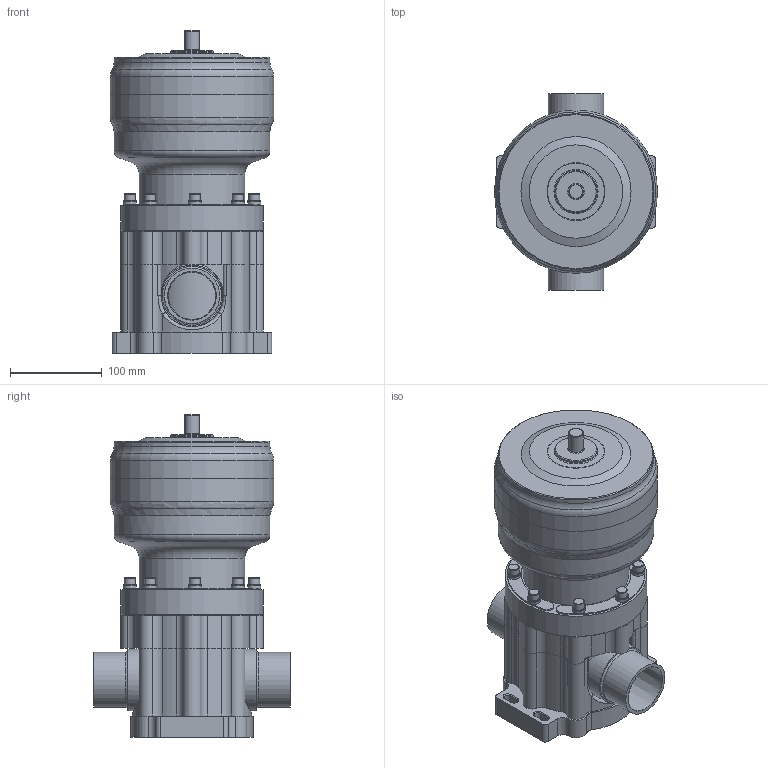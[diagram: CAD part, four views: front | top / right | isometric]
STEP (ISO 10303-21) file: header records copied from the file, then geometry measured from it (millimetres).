
FILE_DESCRIPTION(/* description */ (''),/* implementation_level */ '2;1');
FILE_NAME(/* name */ '50A AV Assy_stp.stp',/* time_stamp */ '2019-10-04T16:11:43+09:00',/* author */ (''),/* organization */ (''),/* preprocessor_version */ 'ST-DEVELOPER v11',/* originating_system */ 'SIEMENS PLM Software NX 7.5',/* authorisation */ '');
FILE_SCHEMA (('AUTOMOTIVE_DESIGN { 1 0 10303 214 1 1 1 1 }'));
Length unit declared in the file: millimetre
Products named in the file (10): Middle Case(50A); M6 PP End CAP; Upper Case2; PLate; Top Case(50A) - 0525; PC CAP; 2Inch Base (Final); 50A BODY  - ( -20180607); Middle Case(50A) Assy; 50A AV Assy_stp
Assembly tree (17 placements, depth 3):
  50A AV Assy_stp
    50A BODY  - ( -20180607)
    Middle Case(50A) Assy
      Middle Case(50A)
    2Inch Base (Final)
    PC CAP
    Top Case(50A) - 0525
    PLate  x2
    Upper Case2
    M6 PP End CAP  x8
Bounding box: 178 x 214 x 351.5 mm (x, y, z)
Volume: 6324663.8 mm3; surface area: 522008.4 mm2
Topology: 16 solids, 16 shells, 715 faces, 1732 edges, 1071 vertices
Faces by surface type: plane 247, cylinder 247, bspline 109, torus 60, cone 28, sphere 24
Full cylindrical faces by diameter (mm): 3 x1, 6.5 x14, 8.566 x1, 11 x6, 12 x8, 14.5 x8, 16 x1, 20 x1, 25 x1, 45 x1, 46 x1, 53 x2, 60.4 x2, 63 x1, 65 x1, 67 x2, 95 x1, 104 x1, 105 x1, 115 x1, 119 x1, 129 x1, 155 x1, 170 x2, 178 x2
Entity records: 23603 total; most frequent: CARTESIAN_POINT 8780, DIRECTION 3034, ORIENTED_EDGE 2992, EDGE_CURVE 1496, AXIS2_PLACEMENT_3D 1240, VERTEX_POINT 971, EDGE_LOOP 785, ADVANCED_FACE 649
